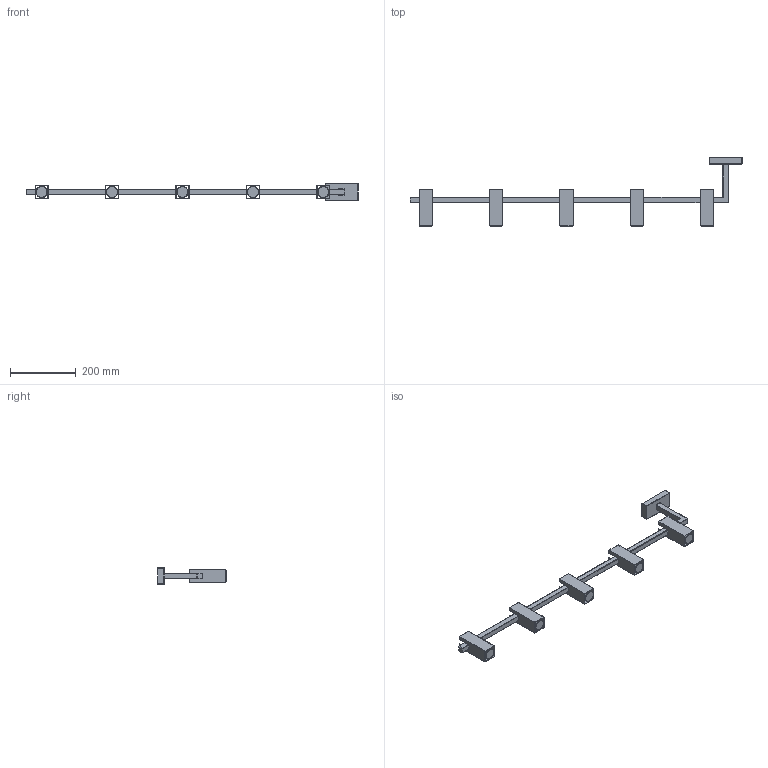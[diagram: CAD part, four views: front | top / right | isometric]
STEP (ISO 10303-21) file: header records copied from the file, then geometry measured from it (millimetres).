
FILE_DESCRIPTION ((), '1');
FILE_NAME ('G:\_Liczy się słowo\_Modelowanie SIGMA\TOP\gotowe\TOP.stp', '2024-11-14T12:48:42', ('Unknown'), ('Unknown'), 'HarmonyWare STEP v2.1.4', 'HarmonyWare Translators', '');
FILE_SCHEMA (('CONFIG_CONTROL_DESIGN'));
Length unit declared in the file: centimetre
Products named in the file (17): podsufitka; żarówka; dekiel; klosz
Assembly tree (16 placements, depth 2):
  (unnamed)
    podsufitka
    żarówka
    dekiel
    klosz
    dekiel
    klosz
    żarówka
    dekiel
    klosz
    dekiel
    klosz
    żarówka
    dekiel
    klosz
    żarówka
    żarówka
Bounding box: 1013.5 x 209.69 x 50 mm (x, y, z)
Volume: 567058.8 mm3; surface area: 277288.2 mm2
Topology: 16 solids, 16 shells, 262 faces, 640 edges, 412 vertices
Faces by surface type: bspline 262
Entity records: 11298 total; most frequent: CARTESIAN_POINT 5222, ORIENTED_EDGE 1272, EDGE_CURVE 636, B_SPLINE_CURVE_WITH_KNOTS 440, VERTEX_POINT 412, EDGE_LOOP 278, FACE_OUTER_BOUND 262, ADVANCED_FACE 262
